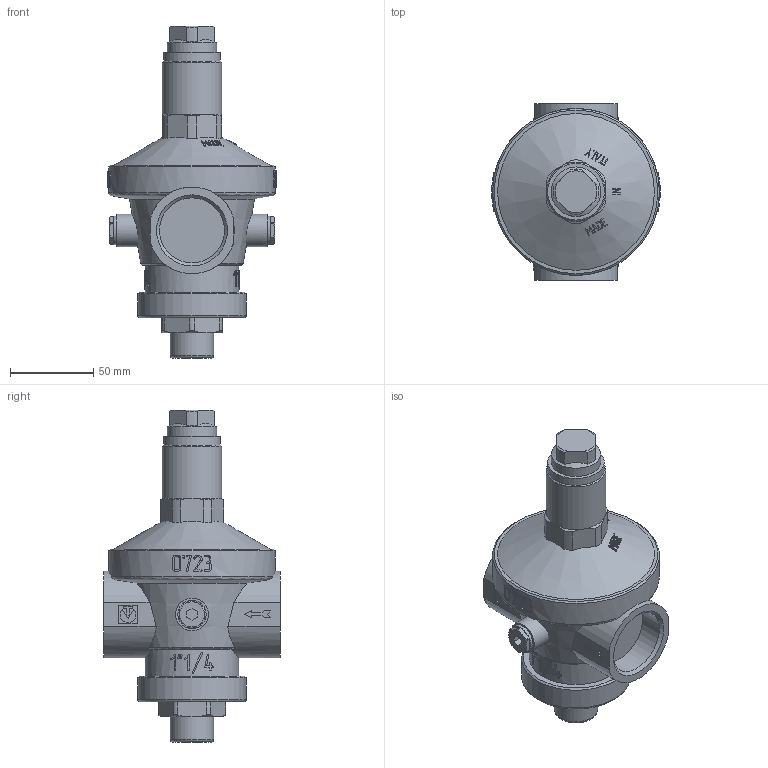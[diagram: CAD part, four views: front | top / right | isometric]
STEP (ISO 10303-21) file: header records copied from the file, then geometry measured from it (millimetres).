
FILE_DESCRIPTION(('STEP AP242'), '1');
FILE_NAME('VT.085.N.0707', '', ('UNSPECIFIED'), ('UNSPECIFIED'), 'C3D Converter', 'C3D Toolkit', '');
FILE_SCHEMA(('AP242_MANAGED_MODEL_BASED_3D_ENGINEERING_MIM_LF { 1 0 10303 442 1 1 4 }'));
Length unit declared in the file: millimetre
Bounding box: 101 x 106 x 199 mm (x, y, z)
Volume: 584293.6 mm3; surface area: 58155.7 mm2
Topology: 1 solids, 1 shells, 854 faces, 2362 edges, 1569 vertices
Faces by surface type: extrusion 394, plane 344, cylinder 57, cone 53, torus 6
Full cylindrical faces by diameter (mm): 17 x2, 19.5 x2, 26 x1, 29.6 x1, 34 x1, 35.5 x1, 38.953 x2, 56 x1, 65 x1, 100 x1
Entity records: 43336 total; most frequent: CARTESIAN_POINT 23830, ORIENTED_EDGE 4652, DIRECTION 2685, EDGE_CURVE 2326, VERTEX_POINT 1555, B_SPLINE_CURVE_WITH_KNOTS 1430, VECTOR 1363, LINE 969
